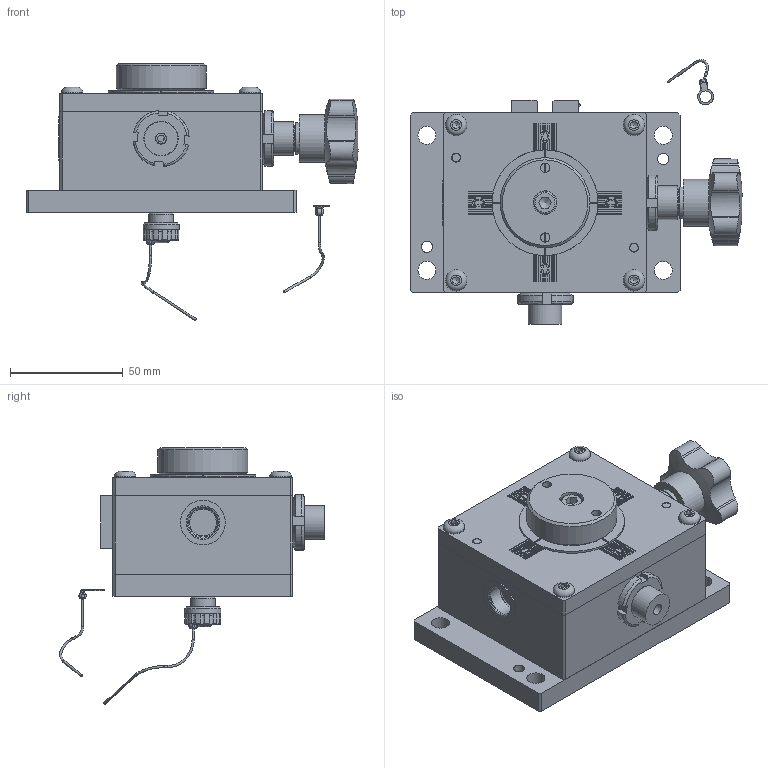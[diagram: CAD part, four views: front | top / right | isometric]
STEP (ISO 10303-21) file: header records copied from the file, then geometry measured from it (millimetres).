
FILE_DESCRIPTION(/* description */ (''),/* implementation_level */ '2;1');
FILE_NAME(/* name */ 'C:\Local Work Area\Progetti\AP\CALIBRI\146.00 Posizionatore\146.00\146.00-DX-L-Y.stp',/* time_stamp */ '2020-02-20T14:59:56+01:00',/* author */ ('CAD5'),/* organization */ (''),/* preprocessor_version */ 'ST-DEVELOPER v17.2',/* originating_system */ 'Autodesk Inventor 2019',/* authorisation */ '');
FILE_SCHEMA (('AUTOMOTIVE_DESIGN { 1 0 10303 214 3 1 1 }'));
Length unit declared in the file: millimetre
Products named in the file (34): 146.00-DX-L-Y; 146.03; 146.01; 146.07; 146.08; 146.02; 146.00_002 Ass manopola-02; 146.00_002 Ass manopola-01; 146.09; UNI 5931 - M 6 x  30; Manopola mecanoplastica 12010250; 146.10; UNI 5933 - M4 x 20; UNI 5923 - M6 x 1 x 8; B12.5 UNI8773; GHIERA M15x1 KM2; UNI 5931 - M5 x 0,8 x 16; ISO 2338 - 5 m6 x 20 - A; Copia di ISO 7380 - M5 x 16; 146.06; UNI 5927 - M5 x 6; 146.00_001 Attrezzatura; 146.04; 146.05; UNI 5931 - M 6 x  20; 146.00 Ass spina; ISO 8735 - 8 x 35 - A; VOLANTINO ZIGRINATO - 130 10 100; catenella; catenella-1; catenella-2; UNI ISO 7380 - M5 x 20; TAPPO_001; ISO 8734 - Ø4 x 16 - A (AP)
Assembly tree (47 placements, depth 4):
  146.00-DX-L-Y
    146.03
    146.01
    146.07
    146.08
    146.02
    146.00_002 Ass manopola-02
      146.09
      146.10
      UNI 5933 - M4 x 20
      UNI 5923 - M6 x 1 x 8
    146.00_002 Ass manopola-01
      146.09
      UNI 5931 - M 6 x  30
      Manopola mecanoplastica 12010250
      146.10
      UNI 5933 - M4 x 20
      UNI 5923 - M6 x 1 x 8
      B12.5 UNI8773  x2
    GHIERA M15x1 KM2  x2
    UNI 5931 - M5 x 0,8 x 16  x4
    ISO 2338 - 5 m6 x 20 - A  x2
    Copia di ISO 7380 - M5 x 16  x4
    146.06
    UNI 5927 - M5 x 6
    146.00_001 Attrezzatura
      146.04
      146.05
      UNI 5931 - M 6 x  20
    146.00 Ass spina
      ISO 8735 - 8 x 35 - A
      VOLANTINO ZIGRINATO - 130 10 100
      catenella
        catenella-1
        catenella-2
      UNI ISO 7380 - M5 x 20
    TAPPO_001
    ISO 8734 - Ø4 x 16 - A (AP)  x2
Bounding box: 147.51 x 117.71 x 114.1 mm (x, y, z)
Volume: 392684.1 mm3; surface area: 134923.5 mm2
Topology: 44 solids, 44 shells, 1078 faces, 2799 edges, 1907 vertices
Faces by surface type: plane 672, cylinder 206, cone 94, bspline 54, torus 51, sphere 1
Full cylindrical faces by diameter (mm): 1 x6, 3.242 x2, 4 x8, 4.1 x2, 4.134 x14, 4.135 x1, 4.917 x4, 5 x24, 5.2 x2, 5.3 x1, 5.333 x1, 6 x5, 6.1 x1, 6.4 x2, 6.5 x4, 7.64 x2, 8 x15, 8.5 x4, 9 x4, 9.5 x5, 10 x2, 10.5 x1, 11 x1, 11.5 x4, 12 x5, 12.9 x1, 13 x1, 13.867 x1, 13.9 x1, 13.917 x3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
Entity records: 30603 total; most frequent: CARTESIAN_POINT 6675, ORIENTED_EDGE 4650, DIRECTION 4556, EDGE_CURVE 2325, VERTEX_POINT 1600, AXIS2_PLACEMENT_3D 1556, LINE 1444, VECTOR 1444
